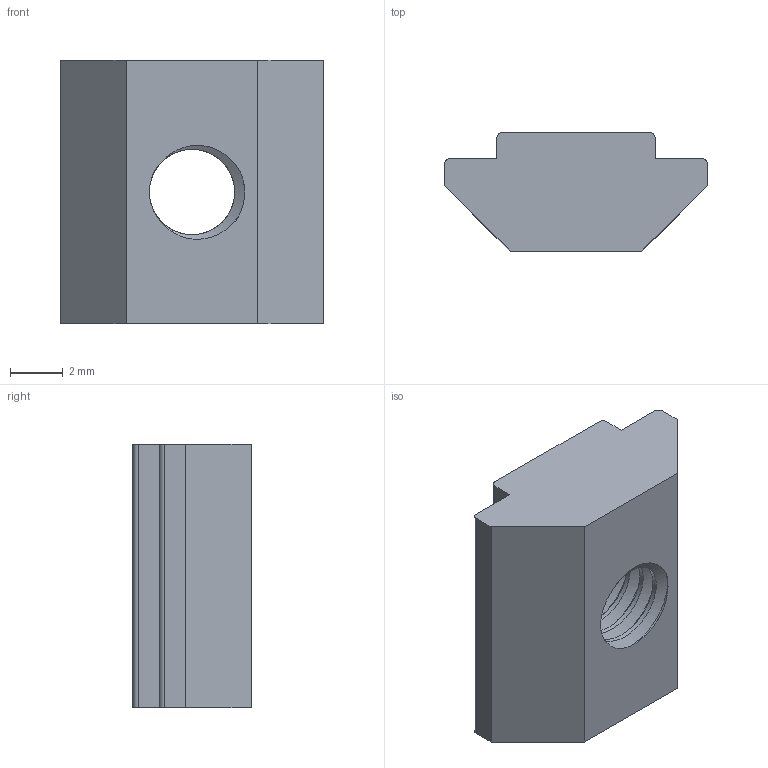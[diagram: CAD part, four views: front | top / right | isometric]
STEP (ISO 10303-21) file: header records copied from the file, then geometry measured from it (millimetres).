
FILE_DESCRIPTION (( 'STEP AP214' ), '1' );
FILE_NAME ('6-3-M4.STEP', '2018-03-05T11:02:11', ( '' ), ( '' ), 'SwSTEP 2.0', 'SolidWorks 2018', '' );
FILE_SCHEMA (( 'AUTOMOTIVE_DESIGN' ));
Length unit declared in the file: millimetre
Products named in the file (1): 6-3-M4
Bounding box: 10 x 4.5 x 10 mm (x, y, z)
Volume: 301.8 mm3; surface area: 389 mm2
Topology: 1 solids, 1 shells, 33 faces, 93 edges, 62 vertices
Faces by surface type: cylinder 18, plane 12, bspline 3
Entity records: 1938 total; most frequent: CARTESIAN_POINT 1148, ORIENTED_EDGE 186, DIRECTION 127, EDGE_CURVE 93, VERTEX_POINT 62, LINE 47, VECTOR 47, AXIS2_PLACEMENT_3D 40
